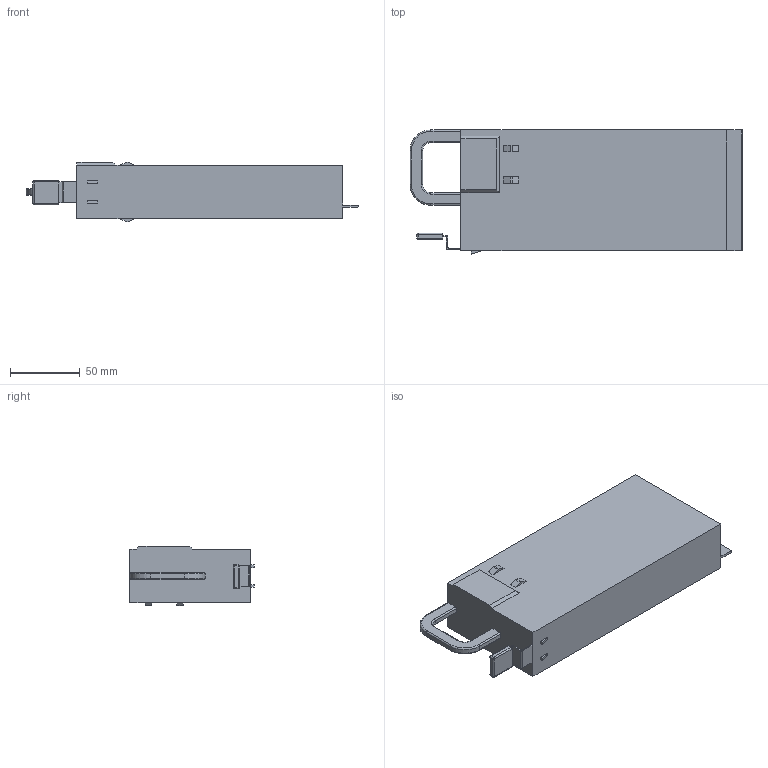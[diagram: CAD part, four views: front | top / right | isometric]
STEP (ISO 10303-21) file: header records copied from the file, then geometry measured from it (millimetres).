
FILE_DESCRIPTION(/* description */ ('STEP AP242 Edition 2','CAx-IF Rec.Pracs.---Representation and Presentation of Product Manufacturing Information (PMI)---4.0---2014-10-13','CAx-IF Rec.Pracs.---3D Tessellated Geometry---0.4---2014-09-14','2;1','CAx-IF Rec.Pracs.---User Defined Attributes---1.5---2016-08-15'),/* implementation_level */ '2;1');
FILE_NAME(/* name */ 'Part Studio 1 - Part 1',/* time_stamp */ '2026-09-28T13:23:50Z',/* author */ (''),/* organization */ (''),/* preprocessor_version */ 'ST-DEVELOPER v20',/* originating_system */ 'ONSHAPE BY PTC INC, 1.221',/* authorisation */ ' ');
FILE_SCHEMA (('AP242_MANAGED_MODEL_BASED_3D_ENGINEERING_MIM_LF { 1 0 10303 442 3 1 4 }'));
Length unit declared in the file: metre
Products named in the file (1): Part 1
Bounding box: 237.97 x 88.97 x 42.5 mm (x, y, z)
Volume: 645891.9 mm3; surface area: 60692.4 mm2
Topology: 1 solids, 1 shells, 104 faces, 261 edges, 162 vertices
Faces by surface type: plane 65, cylinder 27, torus 8, sphere 4
Entity records: 3065 total; most frequent: DIRECTION 529, CARTESIAN_POINT 524, ORIENTED_EDGE 514, EDGE_CURVE 257, LINE 195, VECTOR 195, AXIS2_PLACEMENT_3D 167, VERTEX_POINT 162
